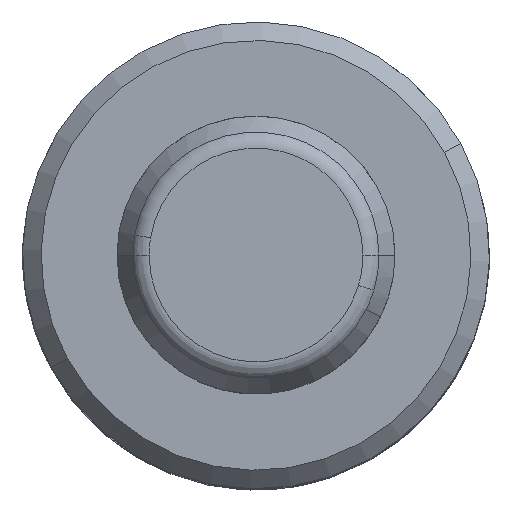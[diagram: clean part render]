
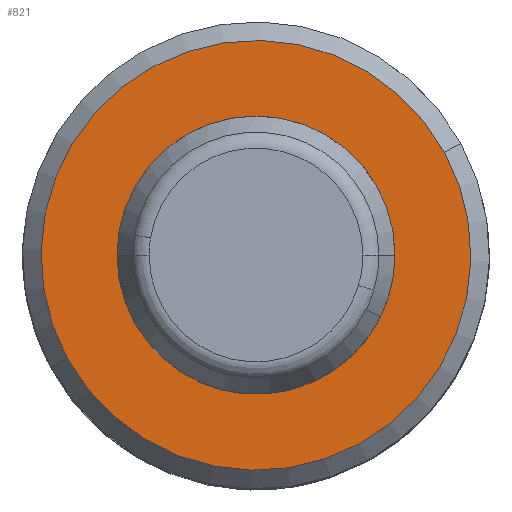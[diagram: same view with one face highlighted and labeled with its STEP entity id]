
A CAD part, top view. The second image highlights one B-rep face of the part: STEP entity #821.
In plain terms, the highlighted planar face has unit normal (0, 0, 1).
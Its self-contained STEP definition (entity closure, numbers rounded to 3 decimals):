
#769=CARTESIAN_POINT('Axis2P3D Location',(0.,0.,39.)) ;
#773=CARTESIAN_POINT('Vertex',(10.18,5.561,39.)) ;
#775=CARTESIAN_POINT('Vertex',(-10.18,-5.561,39.)) ;
#800=CARTESIAN_POINT('Axis2P3D Location',(0.,0.,39.)) ;
#812=CARTESIAN_POINT('Axis2P3D Location',(11.6,0.,39.)) ;
#770=DIRECTION('Axis2P3D Direction',(0.,0.,-1.)) ;
#801=DIRECTION('Axis2P3D Direction',(0.,0.,-1.)) ;
#813=DIRECTION('Axis2P3D Direction',(0.,0.,1.)) ;
#814=DIRECTION('Axis2P3D XDirection',(1.,0.,0.)) ;
#771=AXIS2_PLACEMENT_3D('Circle Axis2P3D',#769,#770,$) ;
#802=AXIS2_PLACEMENT_3D('Circle Axis2P3D',#800,#801,$) ;
#815=AXIS2_PLACEMENT_3D('Plane Axis2P3D',#812,#813,#814) ;
#818=ORIENTED_EDGE('',*,*,#777,.T.) ;
#819=ORIENTED_EDGE('',*,*,#804,.T.) ;
#821=ADVANCED_FACE('',(#820),#816,.T.) ;
#772=CIRCLE('generated circle',#771,11.6) ;
#803=CIRCLE('generated circle',#802,11.6) ;
#777=EDGE_CURVE('',#774,#776,#772,.F.) ;
#804=EDGE_CURVE('',#776,#774,#803,.F.) ;
#817=EDGE_LOOP('',(#818,#819)) ;
#820=FACE_OUTER_BOUND('',#817,.T.) ;
#816=PLANE('Plane',#815) ;
#774=VERTEX_POINT('',#773) ;
#776=VERTEX_POINT('',#775) ;
